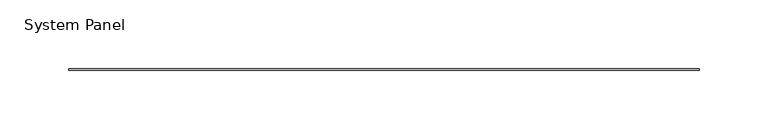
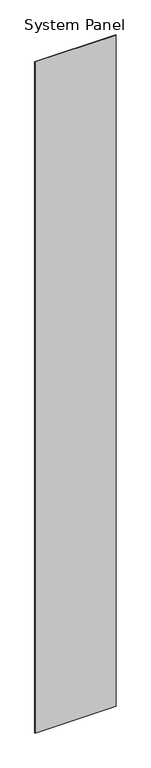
"""IFC4 building model written with IfcOpenShell, lengths in millimetres: plate geometry, System Panel : Stratco_Hiland_Interlock_Panel."""

from ifc_helpers import new_model, si_unit, origin, origin_with_axes, place, context, project, spatial, polyline, outline, extrude, source, transform, mapped, element, save


def system_panel_d50809be(model_context):
    return source(origin(), model_context, "Body", "SweptSolid", [
        extrude(outline(polyline([(229.4514014, 24.0), (-229.4514014, 24.0), (-229.4514014, 25.0), (229.4514014, 25.0), (229.4514014, 24.0)])), origin_with_axes(), (0.0, 0.0, 1.0), 4000.0),
    ])


if __name__ == "__main__":
    model = new_model("IFC4")
    model_context = context("Model", 3, world=origin())
    ifc_project = project(units=[si_unit("LENGTHUNIT", "METRE", prefix="MILLI")], contexts=[model_context])
    site = spatial("IfcSite", under=ifc_project)
    building = spatial("IfcBuilding", under=site)
    placement = place(None, origin())
    system_panel_shape = system_panel_d50809be(model_context)
    element("IfcPlate", 1, ObjectType="System Panel : Stratco_Hiland_Interlock_Panel", at=placement, inside=building, context=model_context, shape_type="MappedRepresentation", body=[
        mapped(system_panel_shape, transform((0.0, 0.0, 0.0), x_axis=(1.0, 0.0, 0.0), y_axis=(0.0, 1.0, 0.0), z_axis=(0.0, 0.0, 1.0))),
    ])
    save(model, "model.ifc")
